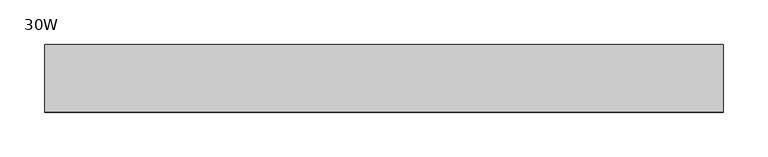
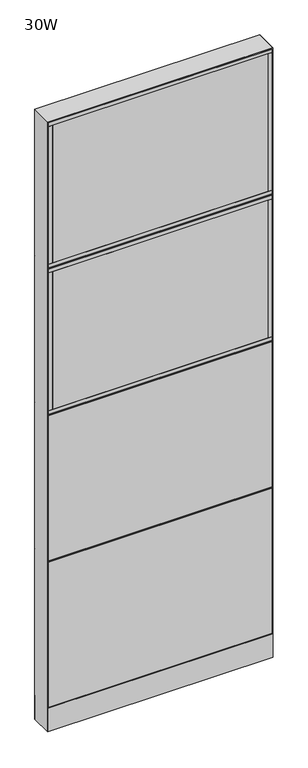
"""IFC4 building model written with IfcOpenShell, lengths in millimetres: furniture geometry, Steelcase - Montage - Frame - 86H - Enhanced Standard - Base Cavity : 30W."""

from ifc_helpers import new_model, si_unit, point, frame, frame_2d, origin, origin_with_axes, place, context, project, spatial, polyline, circle_curve, trimmed, segment, composite_curve, outline, extrude, faceted_brep, source, transform, mapped, element, save


def furniture_30w_c8dfa282(model_context):
    return source(origin(), model_context, "Body", "SolidModel", [
        extrude(outline(polyline([(3.175, 31.7500194), (3.175, 38.1000194), (758.825, 38.1000194), (758.825, 31.7500194), (3.175, 31.7500194)])), frame((0.0, 0.0, 92.075), z_axis=(0.0, 0.0, 1.0), x_axis=(1.0, 0.0, 0.0)), (0.0, 0.0, 1.0), 517.525),
        extrude(outline(polyline([(3.175, 31.7500194), (3.175, 38.1000194), (758.825, 38.1000194), (758.825, 31.7500194), (3.175, 31.7500194)])), frame((0.0, 0.0, 615.95), z_axis=(0.0, 0.0, 1.0), x_axis=(1.0, 0.0, 0.0)), (0.0, 0.0, 1.0), 517.525),
        extrude(outline(polyline([(746.125, 38.1000015), (746.125, 31.7500017), (15.875, 31.7500017), (15.875, 38.1000015), (746.125, 38.1000015)])), frame((0.0, 0.0, 1152.525), z_axis=(0.0, 0.0, 1.0), x_axis=(1.0, 0.0, 0.0)), (0.0, 0.0, 1.0), 492.125),
        extrude(outline(polyline([(746.125, -31.7499985), (746.125, -38.1000015), (15.875, -38.1000015), (15.875, -31.7499985), (746.125, -31.7499985)])), frame((0.0, 0.0, 1152.525), z_axis=(0.0, 0.0, 1.0), x_axis=(1.0, 0.0, 0.0)), (0.0, 0.0, 1.0), 492.125),
        extrude(outline(polyline([(758.825, -38.1000015), (746.125, -38.1000015), (746.125, 38.1000015), (758.825, 38.1000015), (758.825, -38.1000015)])), frame((0.0, 0.0, 1152.525), z_axis=(0.0, 0.0, 1.0), x_axis=(1.0, 0.0, 0.0)), (0.0, 0.0, 1.0), 492.125),
        extrude(outline(polyline([(15.875, -38.1000015), (3.175, -38.1000015), (3.175, 38.1000015), (15.875, 38.1000015), (15.875, -38.1000015)])), frame((0.0, 0.0, 1152.525), z_axis=(0.0, 0.0, 1.0), x_axis=(1.0, 0.0, 0.0)), (0.0, 0.0, 1.0), 492.125),
        extrude(outline(polyline([(758.825, -38.1000015), (3.175, -38.1000015), (3.175, 38.1000015), (758.825, 38.1000015), (758.825, -38.1000015)])), frame((0.0, 0.0, 1139.825), z_axis=(0.0, 0.0, 1.0), x_axis=(1.0, 0.0, 0.0)), (0.0, 0.0, 1.0), 12.7),
        extrude(outline(polyline([(758.825, -38.1000015), (3.175, -38.1000015), (3.175, 38.1000015), (758.825, 38.1000015), (758.825, -38.1000015)])), frame((0.0, 0.0, 1644.65), z_axis=(0.0, 0.0, 1.0), x_axis=(1.0, 0.0, 0.0)), (0.0, 0.0, 1.0), 12.7),
        extrude(outline(polyline([(746.125, 38.1000015), (746.125, 31.7500017), (15.875, 31.7500017), (15.875, 38.1000015), (746.125, 38.1000015)])), frame((0.0, 0.0, 1676.4), z_axis=(0.0, 0.0, 1.0), x_axis=(1.0, 0.0, 0.0)), (0.0, 0.0, 1.0), 492.125),
        extrude(outline(polyline([(746.125, -31.7499985), (746.125, -38.1000015), (15.875, -38.1000015), (15.875, -31.7499985), (746.125, -31.7499985)])), frame((0.0, 0.0, 1676.4), z_axis=(0.0, 0.0, 1.0), x_axis=(1.0, 0.0, 0.0)), (0.0, 0.0, 1.0), 492.125),
        extrude(outline(polyline([(758.825, -38.1000015), (746.125, -38.1000015), (746.125, 38.1000015), (758.825, 38.1000015), (758.825, -38.1000015)])), frame((0.0, 0.0, 1676.4), z_axis=(0.0, 0.0, 1.0), x_axis=(1.0, 0.0, 0.0)), (0.0, 0.0, 1.0), 492.125),
        extrude(outline(polyline([(15.875, -38.1000015), (3.175, -38.1000015), (3.175, 38.1000015), (15.875, 38.1000015), (15.875, -38.1000015)])), frame((0.0, 0.0, 1676.4), z_axis=(0.0, 0.0, 1.0), x_axis=(1.0, 0.0, 0.0)), (0.0, 0.0, 1.0), 492.125),
        extrude(outline(polyline([(758.825, -38.1000015), (3.175, -38.1000015), (3.175, 38.1000015), (758.825, 38.1000015), (758.825, -38.1000015)])), frame((0.0, 0.0, 1663.7), z_axis=(0.0, 0.0, 1.0), x_axis=(1.0, 0.0, 0.0)), (0.0, 0.0, 1.0), 12.7),
        extrude(outline(polyline([(758.825, -38.1000015), (3.175, -38.1000015), (3.175, 38.1000015), (758.825, 38.1000015), (758.825, -38.1000015)])), frame((0.0, 0.0, 2168.525), z_axis=(0.0, 0.0, 1.0), x_axis=(1.0, 0.0, 0.0)), (0.0, 0.0, 1.0), 12.7),
        faceted_brep([(-5.4e-06, 38.102627, 1136.6500027), (6.3499917, 31.7526299, 1142.9999997), (755.6500047, 31.7526299, 1142.9999997), (762.0, 38.1026253, 1136.6500044), (755.6500047, 31.7526299, 1130.3000003), (6.3499917, 31.7526299, 1130.3000003)], [[[0, 1, 2, 3]], [[3, 4, 5, 0]], [[1, 5, 4, 2]], [[0, 5, 1]], [[2, 4, 3]]]),
        faceted_brep([(-5.4e-06, 38.102627, 612.7750027), (6.3499917, 31.7526299, 619.1249997), (755.6500047, 31.7526299, 619.1249997), (762.0, 38.1026253, 612.7750044), (755.6500047, 31.7526299, 606.4250003), (6.3499917, 31.7526299, 606.4250003)], [[[0, 1, 2, 3]], [[3, 4, 5, 0]], [[1, 5, 4, 2]], [[0, 5, 1]], [[2, 4, 3]]]),
        faceted_brep([(-5.4e-06, 38.102627, 1660.5250027), (6.3499917, 31.7526299, 1666.8749997), (755.6500047, 31.7526299, 1666.8749997), (762.0, 38.1026253, 1660.5250044), (755.6500047, 31.7526299, 1654.1750003), (6.3499917, 31.7526299, 1654.1750003)], [[[0, 1, 2, 3]], [[3, 4, 5, 0]], [[1, 5, 4, 2]], [[0, 5, 1]], [[2, 4, 3]]]),
        extrude(outline(polyline([(3.175, -31.7500194), (758.825, -31.7500194), (758.825, -38.1000194), (3.175, -38.1000194), (3.175, -31.7500194)])), frame((0.0, 0.0, 92.075), z_axis=(0.0, 0.0, 1.0), x_axis=(1.0, 0.0, 0.0)), (0.0, 0.0, 1.0), 517.525),
        extrude(outline(polyline([(3.175, -31.7500194), (758.825, -31.7500194), (758.825, -38.1000194), (3.175, -38.1000194), (3.175, -31.7500194)])), frame((0.0, 0.0, 615.95), z_axis=(0.0, 0.0, 1.0), x_axis=(1.0, 0.0, 0.0)), (0.0, 0.0, 1.0), 517.525),
        extrude(outline(polyline([(746.125, -38.1000015), (15.875, -38.1000015), (15.875, -31.7500017), (746.125, -31.7500017), (746.125, -38.1000015)])), frame((0.0, 0.0, 1152.525), z_axis=(0.0, 0.0, 1.0), x_axis=(1.0, 0.0, 0.0)), (0.0, 0.0, 1.0), 492.125),
        extrude(outline(polyline([(746.125, 31.7499985), (15.875, 31.7499985), (15.875, 38.1000015), (746.125, 38.1000015), (746.125, 31.7499985)])), frame((0.0, 0.0, 1152.525), z_axis=(0.0, 0.0, 1.0), x_axis=(1.0, 0.0, 0.0)), (0.0, 0.0, 1.0), 492.125),
        extrude(outline(polyline([(758.825, 38.1000015), (758.825, -38.1000015), (746.125, -38.1000015), (746.125, 38.1000015), (758.825, 38.1000015)])), frame((0.0, 0.0, 1152.525), z_axis=(0.0, 0.0, 1.0), x_axis=(1.0, 0.0, 0.0)), (0.0, 0.0, 1.0), 492.125),
        extrude(outline(polyline([(15.875, 38.1000015), (15.875, -38.1000015), (3.175, -38.1000015), (3.175, 38.1000015), (15.875, 38.1000015)])), frame((0.0, 0.0, 1152.525), z_axis=(0.0, 0.0, 1.0), x_axis=(1.0, 0.0, 0.0)), (0.0, 0.0, 1.0), 492.125),
        extrude(outline(polyline([(758.825, 38.1000015), (758.825, -38.1000015), (3.175, -38.1000015), (3.175, 38.1000015), (758.825, 38.1000015)])), frame((0.0, 0.0, 1139.825), z_axis=(0.0, 0.0, 1.0), x_axis=(1.0, 0.0, 0.0)), (0.0, 0.0, 1.0), 12.7),
        extrude(outline(polyline([(758.825, 38.1000015), (758.825, -38.1000015), (3.175, -38.1000015), (3.175, 38.1000015), (758.825, 38.1000015)])), frame((0.0, 0.0, 1644.65), z_axis=(0.0, 0.0, 1.0), x_axis=(1.0, 0.0, 0.0)), (0.0, 0.0, 1.0), 12.7),
        extrude(outline(polyline([(746.125, -38.1000015), (15.875, -38.1000015), (15.875, -31.7500017), (746.125, -31.7500017), (746.125, -38.1000015)])), frame((0.0, 0.0, 1676.4), z_axis=(0.0, 0.0, 1.0), x_axis=(1.0, 0.0, 0.0)), (0.0, 0.0, 1.0), 492.125),
        extrude(outline(polyline([(746.125, 31.7499985), (15.875, 31.7499985), (15.875, 38.1000015), (746.125, 38.1000015), (746.125, 31.7499985)])), frame((0.0, 0.0, 1676.4), z_axis=(0.0, 0.0, 1.0), x_axis=(1.0, 0.0, 0.0)), (0.0, 0.0, 1.0), 492.125),
        extrude(outline(polyline([(758.825, 38.1000015), (758.825, -38.1000015), (746.125, -38.1000015), (746.125, 38.1000015), (758.825, 38.1000015)])), frame((0.0, 0.0, 1676.4), z_axis=(0.0, 0.0, 1.0), x_axis=(1.0, 0.0, 0.0)), (0.0, 0.0, 1.0), 492.125),
        extrude(outline(polyline([(15.875, 38.1000015), (15.875, -38.1000015), (3.175, -38.1000015), (3.175, 38.1000015), (15.875, 38.1000015)])), frame((0.0, 0.0, 1676.4), z_axis=(0.0, 0.0, 1.0), x_axis=(1.0, 0.0, 0.0)), (0.0, 0.0, 1.0), 492.125),
        extrude(outline(polyline([(758.825, 38.1000015), (758.825, -38.1000015), (3.175, -38.1000015), (3.175, 38.1000015), (758.825, 38.1000015)])), frame((0.0, 0.0, 1663.7), z_axis=(0.0, 0.0, 1.0), x_axis=(1.0, 0.0, 0.0)), (0.0, 0.0, 1.0), 12.7),
        extrude(outline(polyline([(758.825, 38.1000015), (758.825, -38.1000015), (3.175, -38.1000015), (3.175, 38.1000015), (758.825, 38.1000015)])), frame((0.0, 0.0, 2168.525), z_axis=(0.0, 0.0, 1.0), x_axis=(1.0, 0.0, 0.0)), (0.0, 0.0, 1.0), 12.7),
        faceted_brep([(0.0, -38.1026297, 1136.65), (762.0, -38.1026297, 1136.65), (755.6500047, -31.7526299, 1142.9999997), (6.3499917, -31.7526299, 1142.9999997), (6.3499917, -31.7526299, 1130.3000003), (755.6500047, -31.7526299, 1130.3000003)], [[[0, 1, 2, 3]], [[1, 0, 4, 5]], [[3, 2, 5, 4]], [[0, 3, 4]], [[2, 1, 5]]]),
        faceted_brep([(0.0, -38.1026297, 612.775), (762.0, -38.1026297, 612.775), (755.6500047, -31.7526299, 619.1249997), (6.3499917, -31.7526299, 619.1249997), (6.3499917, -31.7526299, 606.4250003), (755.6500047, -31.7526299, 606.4250003)], [[[0, 1, 2, 3]], [[1, 0, 4, 5]], [[3, 2, 5, 4]], [[0, 3, 4]], [[2, 1, 5]]]),
        faceted_brep([(0.0, -38.1026297, 1660.525), (762.0, -38.1026297, 1660.525), (755.6500047, -31.7526299, 1666.8749997), (6.3499917, -31.7526299, 1666.8749997), (6.3499917, -31.7526299, 1654.1750003), (755.6500047, -31.7526299, 1654.1750003)], [[[0, 1, 2, 3]], [[1, 0, 4, 5]], [[3, 2, 5, 4]], [[0, 3, 4]], [[2, 1, 5]]]),
        extrude(outline(polyline([(6.350003, -31.7499985), (755.649997, -31.7499985), (762.0, -38.1000015), (0.0, -38.1000015), (6.350003, -31.7499985)])), frame((0.0, 0.0, 4.064), z_axis=(0.0, 0.0, 1.0), x_axis=(1.0, 0.0, 0.0)), (0.0, 0.0, 1.0), 84.835997),
        extrude(outline(polyline([(6.3500002, 31.7500017), (0.0, 38.1000015), (762.0, 38.1000015), (755.6500002, 31.7500017), (6.3500002, 31.7500017)])), frame((0.0, 0.0, 4.064), z_axis=(0.0, 0.0, 1.0), x_axis=(1.0, 0.0, 0.0)), (0.0, 0.0, 1.0), 84.835997),
        faceted_brep([(762.0, -38.1000015, 2184.4), (0.0, -38.1000015, 2184.4), (6.3500484, -31.749953, 2178.0499516), (755.6499516, -31.749953, 2178.0499516), (6.3500484, 31.749953, 2178.0499516), (755.6499516, 31.749953, 2178.0499516), (0.0, 38.1000015, 2184.4), (762.0, 38.1000015, 2184.4)], [[[0, 1, 2, 3]], [[3, 2, 4, 5]], [[6, 7, 5, 4]], [[1, 0, 7, 6]], [[2, 1, 6, 4]], [[0, 3, 5, 7]]]),
        extrude(outline(composite_curve([segment(trimmed(circle_curve(frame_2d((44.45, 0.0)), 15.24), [point((29.21, 0.0))], [point((59.69, 0.0))], False, "CARTESIAN"), True, "CONTINUOUS"), segment(trimmed(circle_curve(frame_2d((44.45, 0.0)), 15.24), [point((59.69, 0.0))], [point((29.21, 0.0))], False, "CARTESIAN"), True, "CONTINUOUS")], self_intersect=False)), origin_with_axes(), (0.0, 0.0, 1.0), 4.064),
        extrude(outline(composite_curve([segment(trimmed(circle_curve(frame_2d((717.55, 0.0)), 15.24), [point((702.31, 0.0))], [point((732.79, 0.0))], False, "CARTESIAN"), True, "CONTINUOUS"), segment(trimmed(circle_curve(frame_2d((717.55, 0.0)), 15.24), [point((732.79, 0.0))], [point((702.31, 0.0))], False, "CARTESIAN"), True, "CONTINUOUS")], self_intersect=False)), origin_with_axes(), (0.0, 0.0, 1.0), 4.064),
        faceted_brep([(762.0, -38.1000106, 4.064), (762.0, 38.1000015, 4.064), (762.0, 38.1000015, 2184.4), (762.0, -38.1000106, 2184.3999637), (0.0, 38.1000015, 4.064), (0.0, -38.1000015, 4.064), (0.0, -38.1000015, 2184.4), (0.0, 38.1000015, 2184.4), (755.6499879, 31.7500017, 606.425), (6.35, 31.7500017, 606.425), (6.3499998, 31.7500017, 619.125), (755.6499879, 31.7500017, 619.125), (6.35, -31.7499985, 619.125), (755.6499879, -31.7499985, 619.125), (6.350003, -31.7499985, 606.425), (755.6499879, -31.7499985, 606.425), (755.6499879, 31.7500017, 1130.3), (6.35, 31.7500017, 1130.3), (6.3499998, 31.7500017, 1143.0), (755.6499879, 31.7500017, 1143.0), (6.35, -31.7499985, 1143.0), (755.6499879, -31.7499985, 1143.0), (6.350003, -31.7499985, 1130.3), (755.6499879, -31.7499985, 1130.3), (755.6499879, 31.7500017, 1654.175), (6.35, 31.7500017, 1654.175), (6.3499998, 31.7500017, 1666.875), (755.6499879, 31.7500017, 1666.875), (6.35, -31.7499985, 1666.875), (755.6499879, -31.7499985, 1666.875), (6.350003, -31.7499985, 1654.175), (755.6499879, -31.7499985, 1654.175), (6.35, 31.7500015, 4.064), (6.35, -31.7500015, 4.064), (755.6499879, 31.7499894, 4.064), (755.6499879, -31.7499985, 4.064), (6.35, 31.7500015, 2178.05), (6.35, -31.7500015, 2178.05), (755.6499879, -31.7499985, 2178.0499516), (755.6499879, 31.7499895, 2178.0499516)], [[[0, 1, 2, 3]], [[4, 5, 6, 7]], [[8, 9, 10, 11]], [[11, 10, 12, 13]], [[13, 12, 14, 15]], [[9, 8, 15, 14]], [[16, 17, 18, 19]], [[19, 18, 20, 21]], [[21, 20, 22, 23]], [[17, 16, 23, 22]], [[24, 25, 26, 27]], [[27, 26, 28, 29]], [[29, 28, 30, 31]], [[25, 24, 31, 30]], [[32, 33, 5, 4]], [[34, 1, 0, 35]], [[32, 4, 7, 36, 26, 25, 18, 17, 10, 9]], [[5, 33, 14, 12, 22, 20, 30, 28, 37, 6]], [[28, 26, 36, 37]], [[33, 32, 9, 14]], [[18, 25, 30, 20]], [[10, 17, 22, 12]], [[27, 29, 38, 39]], [[34, 35, 15, 8]], [[16, 11, 13, 23]], [[24, 19, 21, 31]], [[35, 0, 3, 38, 29, 31, 21, 23, 13, 15]], [[1, 34, 8, 11, 16, 19, 24, 27, 39, 2]], [[7, 6, 37, 36]], [[3, 2, 39, 38]]]),
    ])


if __name__ == "__main__":
    model = new_model("IFC4")
    model_context = context("Model", 3, world=origin())
    ifc_project = project(units=[si_unit("LENGTHUNIT", "METRE", prefix="MILLI")], contexts=[model_context])
    site = spatial("IfcSite", under=ifc_project)
    building = spatial("IfcBuilding", under=site)
    placement = place(None, origin())
    furniture_30w_shape = furniture_30w_c8dfa282(model_context)
    element("IfcFurniture", 1, ObjectType="Steelcase - Montage - Frame - 86H - Enhanced Standard - Base Cavity : 30W", at=placement, inside=building, context=model_context, shape_type="MappedRepresentation", body=[
        mapped(furniture_30w_shape, transform((0.0, 0.0, 0.0), x_axis=(1.0, 0.0, 0.0), y_axis=(0.0, 1.0, 0.0), z_axis=(0.0, 0.0, 1.0))),
    ])
    save(model, "model.ifc")
